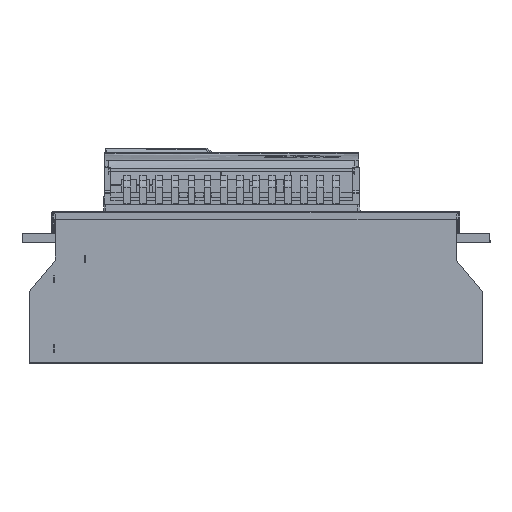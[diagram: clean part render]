
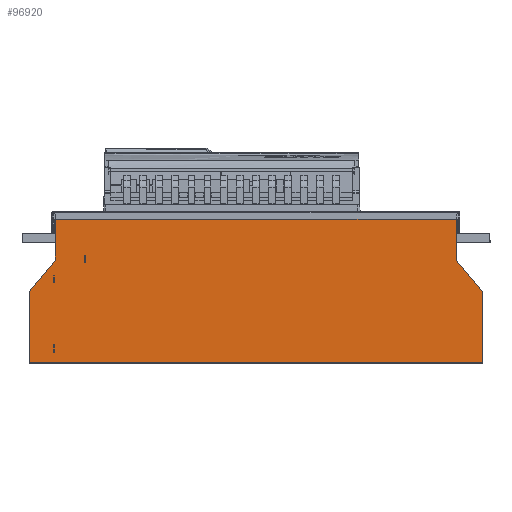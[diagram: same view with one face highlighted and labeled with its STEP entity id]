
A CAD part, left-side view. The second image highlights one B-rep face of the part: STEP entity #96920.
In plain terms, the highlighted planar face has unit normal (-1, 0, 0).
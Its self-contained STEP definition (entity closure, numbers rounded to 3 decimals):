
#28147 = LINE ( 'NONE', #162639, #28151 ) ;
#28151 = VECTOR ( 'NONE', #162640, 1000. ) ;
#28248 = LINE ( 'NONE', #167606, #28255 ) ;
#28255 = VECTOR ( 'NONE', #167603, 1000. ) ;
#28723 = DIRECTION ( 'NONE',  ( 0., -1., 0. ) ) ;
#28727 = CARTESIAN_POINT ( 'NONE',  ( -250.382, 316.523, -72.94 ) ) ;
#28831 = CARTESIAN_POINT ( 'NONE',  ( -250.382, -303.477, 24.157 ) ) ;
#28834 = DIRECTION ( 'NONE',  ( 0., 0.643, 0.766 ) ) ;
#28945 = CARTESIAN_POINT ( 'NONE',  ( -250.382, 316.523, -73.74 ) ) ;
#28949 = DIRECTION ( 'NONE',  ( 0., 0., -1. ) ) ;
#29201 = LINE ( 'NONE', #42859, #29205 ) ;
#29205 = VECTOR ( 'NONE', #42853, 1000. ) ;
#29695 = LINE ( 'NONE', #28727, #29699 ) ;
#29699 = VECTOR ( 'NONE', #28723, 1000. ) ;
#29749 = LINE ( 'NONE', #28831, #29753 ) ;
#29753 = VECTOR ( 'NONE', #28834, 1000. ) ;
#29786 = LINE ( 'NONE', #28945, #29789 ) ;
#29789 = VECTOR ( 'NONE', #28949, 1000. ) ;
#38813 = CARTESIAN_POINT ( 'NONE',  ( -250.382, 280.523, 130.66 ) ) ;
#38817 = DIRECTION ( 'NONE',  ( 0., 0., -1. ) ) ;
#42853 = DIRECTION ( 'NONE',  ( 0., -0.643, 0.766 ) ) ;
#42859 = CARTESIAN_POINT ( 'NONE',  ( -250.382, 316.523, 24.157 ) ) ;
#53997 = VERTEX_POINT ( 'NONE', #164055 ) ;
#54544 = VERTEX_POINT ( 'NONE', #168456 ) ;
#59185 = VECTOR ( 'NONE', #82507, 1000. ) ;
#59194 = LINE ( 'NONE', #82523, #59185 ) ;
#64813 = LINE ( 'NONE', #38813, #64815 ) ;
#64815 = VECTOR ( 'NONE', #38817, 1000. ) ;
#76074 = AXIS2_PLACEMENT_3D ( 'NONE', #126171, #126168, #126165 ) ;
#82507 = DIRECTION ( 'NONE',  ( 0., 0., 1. ) ) ;
#82523 = CARTESIAN_POINT ( 'NONE',  ( -250.382, -267.477, 130.66 ) ) ;
#83918 = ORIENTED_EDGE ( 'NONE', *, *, #90681, .T. ) ;
#83927 = ORIENTED_EDGE ( 'NONE', *, *, #166993, .T. ) ;
#84162 = ORIENTED_EDGE ( 'NONE', *, *, #142392, .T. ) ;
#84206 = ORIENTED_EDGE ( 'NONE', *, *, #163390, .T. ) ;
#84338 = ORIENTED_EDGE ( 'NONE', *, *, #142481, .T. ) ;
#85169 = ORIENTED_EDGE ( 'NONE', *, *, #141202, .F. ) ;
#85480 = ORIENTED_EDGE ( 'NONE', *, *, #139443, .T. ) ;
#85760 = ORIENTED_EDGE ( 'NONE', *, *, #142546, .T. ) ;
#90681 = EDGE_CURVE ( 'NONE', #165905, #165619, #59194, .T. ) ;
#96920 = ADVANCED_FACE ( 'NONE', ( #131821 ), #126199, .T. ) ;
#126165 = DIRECTION ( 'NONE',  ( 0., 0., -1. ) ) ;
#126168 = DIRECTION ( 'NONE',  ( -1., 0., 0. ) ) ;
#126171 = CARTESIAN_POINT ( 'NONE',  ( -250.382, 316.523, -73.74 ) ) ;
#126199 = PLANE ( 'NONE',  #76074 ) ;
#131821 = FACE_OUTER_BOUND ( 'NONE', #145464, .T. ) ;
#139443 = EDGE_CURVE ( 'NONE', #165528, #54544, #64813, .T. ) ;
#141202 = EDGE_CURVE ( 'NONE', #165565, #54544, #29201, .T. ) ;
#142392 = EDGE_CURVE ( 'NONE', #165420, #53997, #29695, .T. ) ;
#142481 = EDGE_CURVE ( 'NONE', #165954, #165905, #29749, .T. ) ;
#142546 = EDGE_CURVE ( 'NONE', #165565, #165420, #29786, .T. ) ;
#145464 = EDGE_LOOP ( 'NONE', ( #85480, #85169, #85760, #84162, #84206, #84338, #83918, #83927 ) ) ;
#162639 = CARTESIAN_POINT ( 'NONE',  ( -250.382, -303.477, -73.74 ) ) ;
#162640 = DIRECTION ( 'NONE',  ( 0., 0., 1. ) ) ;
#162918 = CARTESIAN_POINT ( 'NONE',  ( -250.382, 316.523, -72.94 ) ) ;
#162970 = CARTESIAN_POINT ( 'NONE',  ( -250.382, 280.523, 130.66 ) ) ;
#163010 = CARTESIAN_POINT ( 'NONE',  ( -250.382, 316.523, 24.157 ) ) ;
#163059 = CARTESIAN_POINT ( 'NONE',  ( -250.382, -267.477, 130.66 ) ) ;
#163292 = CARTESIAN_POINT ( 'NONE',  ( -250.382, -267.477, 67.06 ) ) ;
#163343 = CARTESIAN_POINT ( 'NONE',  ( -250.382, -303.477, 24.157 ) ) ;
#163390 = EDGE_CURVE ( 'NONE', #53997, #165954, #28147, .T. ) ;
#164055 = CARTESIAN_POINT ( 'NONE',  ( -250.382, -303.477, -72.94 ) ) ;
#165420 = VERTEX_POINT ( 'NONE', #162918 ) ;
#165528 = VERTEX_POINT ( 'NONE', #162970 ) ;
#165565 = VERTEX_POINT ( 'NONE', #163010 ) ;
#165619 = VERTEX_POINT ( 'NONE', #163059 ) ;
#165905 = VERTEX_POINT ( 'NONE', #163292 ) ;
#165954 = VERTEX_POINT ( 'NONE', #163343 ) ;
#166993 = EDGE_CURVE ( 'NONE', #165619, #165528, #28248, .T. ) ;
#167603 = DIRECTION ( 'NONE',  ( 0., 1., 0. ) ) ;
#167606 = CARTESIAN_POINT ( 'NONE',  ( -250.382, 316.523, 130.66 ) ) ;
#168456 = CARTESIAN_POINT ( 'NONE',  ( -250.382, 280.523, 67.06 ) ) ;
